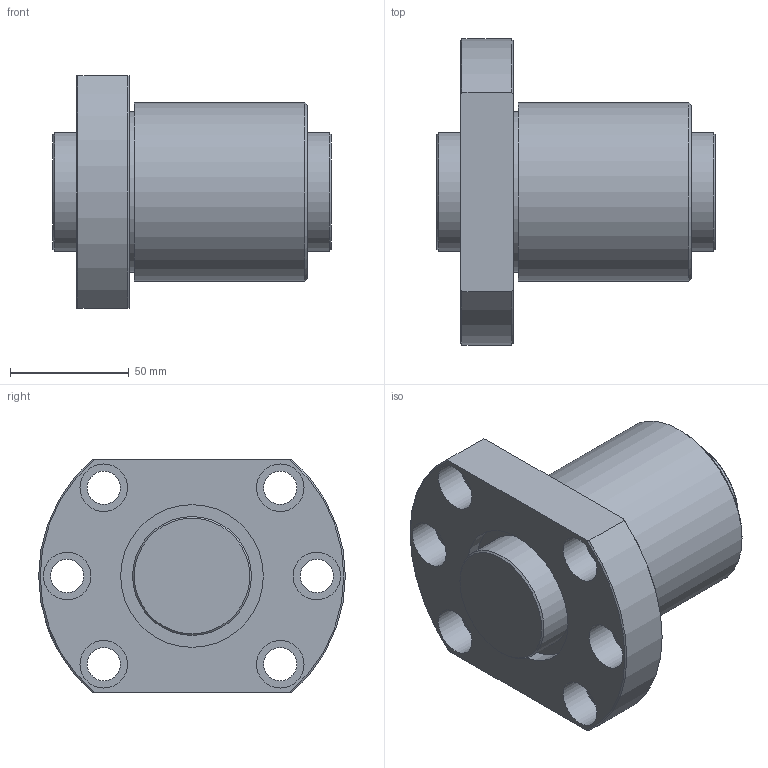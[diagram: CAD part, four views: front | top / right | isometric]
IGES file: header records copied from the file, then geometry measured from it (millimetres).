
Start section: Data from Parasolid IGES Translator 26.0.171, Copyright(c) 2006 Siemens PLM Software. All Rights Reserved.
Global section: file name: DK5012-3RRG1+117LC0_000.igs; native system: By Siemens PLM Incorporated; preprocessor: XPlus GENERIC/IGES 26.0.171; author: Noname; organization: Noname; date: 20250113.092059; units: millimetre
Bounding box: 117 x 129 x 98 mm (x, y, z)
Surface area: 90421.9 mm2 (no closed solid volume)
Topology: 0 solids, 0 shells, 46 faces, 200 edges, 178 vertices
Faces by surface type: revolution 30, extrusion 16
